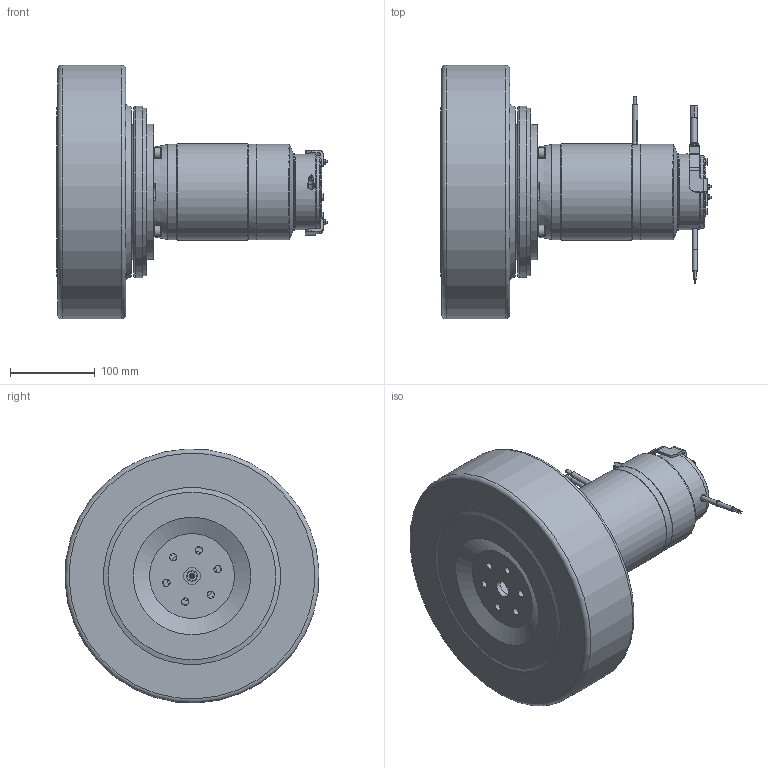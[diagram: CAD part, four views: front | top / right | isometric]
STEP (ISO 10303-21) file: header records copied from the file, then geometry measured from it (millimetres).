
FILE_DESCRIPTION(/* description */ (''),/* implementation_level */ '2;1');
FILE_NAME(/* name */ 'Z:\SITO WEB 2023\Dual Drive\MRH157\MRH157 DC D.300 mm\MRH157.DC.D300.stp',/* time_stamp */ '2023-09-21T16:56:48+02:00',/* author */ ('cad3'),/* organization */ (''),/* preprocessor_version */ 'ST-DEVELOPER v18.1',/* originating_system */ 'Autodesk Inventor 2022',/* authorisation */ '');
FILE_SCHEMA (('AUTOMOTIVE_DESIGN { 1 0 10303 214 3 1 1 }'));
Products named in the file (1): MRH157.DC.D300
Bounding box: 319.7 x 299.7 x 299.7 mm (x, y, z)
Volume: 5680722.5 mm3; surface area: 648154.6 mm2
Topology: 7 solids, 14 shells, 2506 faces, 7189 edges, 4576 vertices
Faces by surface type: plane 1420, cylinder 725, cone 283, bspline 45, torus 32, sphere 1
Full cylindrical faces by diameter (mm): 0.75 x2, 2 x2, 3 x6, 3.2 x6, 3.5 x2, 4 x12, 4.2 x12, 4.3 x3, 4.5 x4, 5 x6, 5.2 x10, 5.4 x1, 5.5 x7, 5.88 x3, 5.917 x3, 6 x1, 6.5 x6, 6.647 x4, 7 x5, 7.2 x1, 7.8 x1, 8 x12, 8.376 x8, 8.4 x5, 8.5 x6, 9 x5, 9.5 x4, 10 x2, 12.5 x1, 13 x9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
Entity records: 91458 total; most frequent: CARTESIAN_POINT 22594, ORIENTED_EDGE 14348, DIRECTION 13882, EDGE_CURVE 7174, AXIS2_PLACEMENT_3D 5046, VERTEX_POINT 4576, LINE 3790, VECTOR 3790
